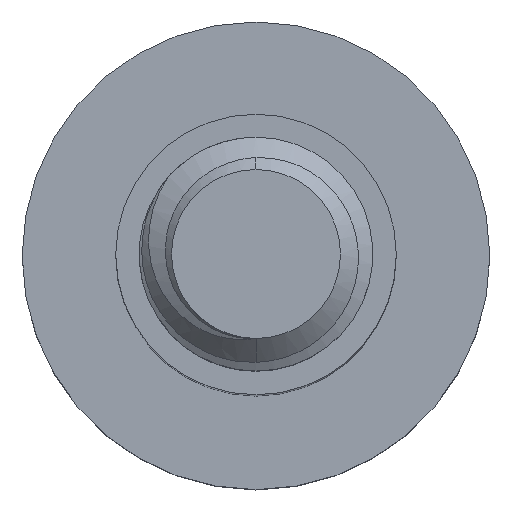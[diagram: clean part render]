
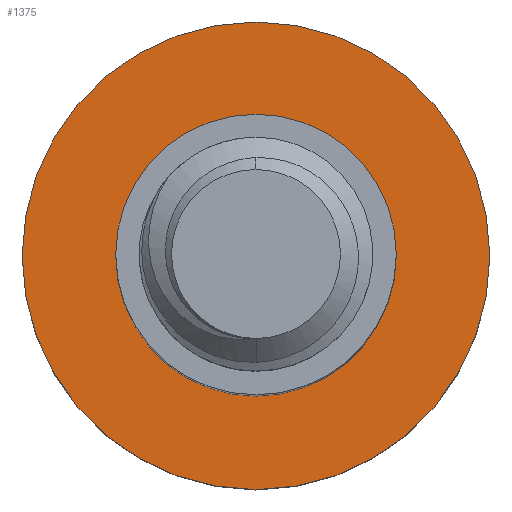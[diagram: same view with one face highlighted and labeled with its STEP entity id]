
A CAD part, top view. The second image highlights one B-rep face of the part: STEP entity #1375.
In plain terms, the highlighted planar face has unit normal (0, 0, 1).
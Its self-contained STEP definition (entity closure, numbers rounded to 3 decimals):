
#26 = FACE_BOUND ( 'NONE', #251, .T. ) ;
#57 = CARTESIAN_POINT ( 'NONE',  ( 0., 0., -16. ) ) ;
#87 = AXIS2_PLACEMENT_3D ( 'NONE', #57, #817, #1566 ) ;
#180 = ORIENTED_EDGE ( 'NONE', *, *, #1885, .F. ) ;
#209 = DIRECTION ( 'NONE',  ( 0., 0., -1. ) ) ;
#216 = DIRECTION ( 'NONE',  ( -1., 0., 0. ) ) ;
#231 = DIRECTION ( 'NONE',  ( -1., 0., 0. ) ) ;
#251 = EDGE_LOOP ( 'NONE', ( #826, #1784 ) ) ;
#278 = CIRCLE ( 'NONE', #665, 3. ) ;
#285 = CARTESIAN_POINT ( 'NONE',  ( -3., 0., -16. ) ) ;
#413 = CARTESIAN_POINT ( 'NONE',  ( 0., 0., -16. ) ) ;
#463 = CARTESIAN_POINT ( 'NONE',  ( 0., 0., -16. ) ) ;
#493 = DIRECTION ( 'NONE',  ( -1., 0., 0. ) ) ;
#665 = AXIS2_PLACEMENT_3D ( 'NONE', #1129, #209, #1876 ) ;
#764 = CARTESIAN_POINT ( 'NONE',  ( 0., 0., -16. ) ) ;
#766 = DIRECTION ( 'NONE',  ( 0., 0., -1. ) ) ;
#817 = DIRECTION ( 'NONE',  ( 0., 0., -1. ) ) ;
#821 = CIRCLE ( 'NONE', #87, 5. ) ;
#826 = ORIENTED_EDGE ( 'NONE', *, *, #1295, .T. ) ;
#1090 = AXIS2_PLACEMENT_3D ( 'NONE', #764, #1277, #216 ) ;
#1109 = VERTEX_POINT ( 'NONE', #1352 ) ;
#1124 = CIRCLE ( 'NONE', #2292, 3. ) ;
#1129 = CARTESIAN_POINT ( 'NONE',  ( 0., 0., -16. ) ) ;
#1170 = CIRCLE ( 'NONE', #1090, 5. ) ;
#1270 = VERTEX_POINT ( 'NONE', #2028 ) ;
#1277 = DIRECTION ( 'NONE',  ( 0., 0., -1. ) ) ;
#1295 = EDGE_CURVE ( 'NONE', #1908, #1960, #1124, .T. ) ;
#1328 = EDGE_LOOP ( 'NONE', ( #180, #2206 ) ) ;
#1352 = CARTESIAN_POINT ( 'NONE',  ( -5., 0., -16. ) ) ;
#1375 = ADVANCED_FACE ( 'NONE', ( #26, #1873 ), #1886, .F. ) ;
#1442 = AXIS2_PLACEMENT_3D ( 'NONE', #413, #766, #231 ) ;
#1566 = DIRECTION ( 'NONE',  ( -1., 0., 0. ) ) ;
#1716 = CARTESIAN_POINT ( 'NONE',  ( 3., 0., -16. ) ) ;
#1784 = ORIENTED_EDGE ( 'NONE', *, *, #2307, .T. ) ;
#1810 = EDGE_CURVE ( 'NONE', #1109, #1270, #1170, .T. ) ;
#1873 = FACE_OUTER_BOUND ( 'NONE', #1328, .T. ) ;
#1876 = DIRECTION ( 'NONE',  ( -1., 0., 0. ) ) ;
#1885 = EDGE_CURVE ( 'NONE', #1270, #1109, #821, .T. ) ;
#1886 = PLANE ( 'NONE',  #1442 ) ;
#1908 = VERTEX_POINT ( 'NONE', #285 ) ;
#1960 = VERTEX_POINT ( 'NONE', #1716 ) ;
#1991 = DIRECTION ( 'NONE',  ( 0., 0., -1. ) ) ;
#2028 = CARTESIAN_POINT ( 'NONE',  ( 5., 0., -16. ) ) ;
#2206 = ORIENTED_EDGE ( 'NONE', *, *, #1810, .F. ) ;
#2292 = AXIS2_PLACEMENT_3D ( 'NONE', #463, #1991, #493 ) ;
#2307 = EDGE_CURVE ( 'NONE', #1960, #1908, #278, .T. ) ;
